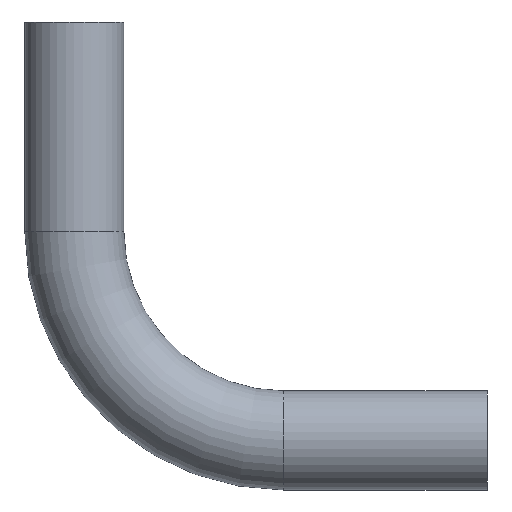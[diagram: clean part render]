
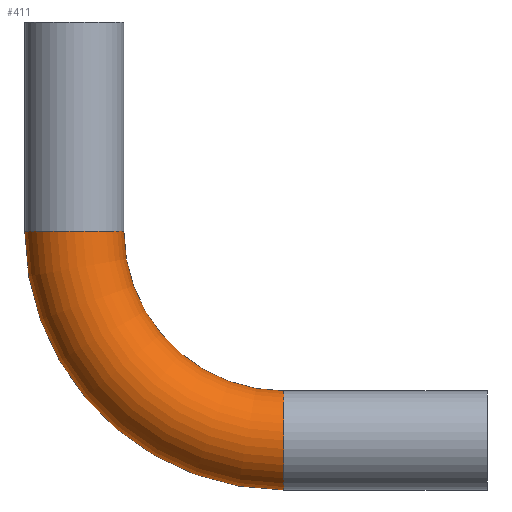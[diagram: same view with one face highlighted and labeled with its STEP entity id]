
A CAD part, top view. The second image highlights one B-rep face of the part: STEP entity #411.
In plain terms, the highlighted toroidal (fillet/blend) face has major radius 190 mm and minor radius 45 mm.
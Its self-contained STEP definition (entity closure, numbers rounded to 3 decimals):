
#1 = CIRCLE ( 'NONE', #9, 235. ) ;
#3 = TOROIDAL_SURFACE ( 'NONE', #383, 190., 45. ) ;
#9 = AXIS2_PLACEMENT_3D ( 'NONE', #17, #14, #16 ) ;
#14 = DIRECTION ( 'NONE',  ( 0., 0., -1. ) ) ;
#16 = DIRECTION ( 'NONE',  ( -1., 0., 0. ) ) ;
#17 = CARTESIAN_POINT ( 'NONE',  ( -185., 190., 0. ) ) ;
#156 = DIRECTION ( 'NONE',  ( -1., 0., 0. ) ) ;
#157 = DIRECTION ( 'NONE',  ( 0., 0., -1. ) ) ;
#160 = CARTESIAN_POINT ( 'NONE',  ( -185., 190., 0. ) ) ;
#175 = DIRECTION ( 'NONE',  ( 0., 0., -1. ) ) ;
#178 = DIRECTION ( 'NONE',  ( 0., -1., 0. ) ) ;
#179 = CARTESIAN_POINT ( 'NONE',  ( -375., 190., 0. ) ) ;
#183 = DIRECTION ( 'NONE',  ( -1., 0., 0. ) ) ;
#184 = CARTESIAN_POINT ( 'NONE',  ( -185., 190., 0. ) ) ;
#191 = FACE_OUTER_BOUND ( 'NONE', #280, .T. ) ;
#197 = DIRECTION ( 'NONE',  ( 0., 0., -1. ) ) ;
#213 = AXIS2_PLACEMENT_3D ( 'NONE', #160, #157, #156 ) ;
#214 = CIRCLE ( 'NONE', #213, 145. ) ;
#245 = CARTESIAN_POINT ( 'NONE',  ( -185., 45., 0. ) ) ;
#247 = CARTESIAN_POINT ( 'NONE',  ( -185., -45., 0. ) ) ;
#249 = CARTESIAN_POINT ( 'NONE',  ( -420., 190., 0. ) ) ;
#254 = VERTEX_POINT ( 'NONE', #287 ) ;
#262 = VERTEX_POINT ( 'NONE', #249 ) ;
#264 = VERTEX_POINT ( 'NONE', #247 ) ;
#266 = VERTEX_POINT ( 'NONE', #245 ) ;
#280 = EDGE_LOOP ( 'NONE', ( #307, #308, #309, #310 ) ) ;
#287 = CARTESIAN_POINT ( 'NONE',  ( -330., 190., 0. ) ) ;
#307 = ORIENTED_EDGE ( 'NONE', *, *, #421, .F. ) ;
#308 = ORIENTED_EDGE ( 'NONE', *, *, #428, .F. ) ;
#309 = ORIENTED_EDGE ( 'NONE', *, *, #416, .T. ) ;
#310 = ORIENTED_EDGE ( 'NONE', *, *, #412, .T. ) ;
#337 = AXIS2_PLACEMENT_3D ( 'NONE', #388, #389, #387 ) ;
#382 = CIRCLE ( 'NONE', #394, 45. ) ;
#383 = AXIS2_PLACEMENT_3D ( 'NONE', #184, #197, #183 ) ;
#384 = CIRCLE ( 'NONE', #337, 45. ) ;
#387 = DIRECTION ( 'NONE',  ( 0., 0., -1. ) ) ;
#388 = CARTESIAN_POINT ( 'NONE',  ( -185., 0., 0. ) ) ;
#389 = DIRECTION ( 'NONE',  ( 1., 0., 0. ) ) ;
#394 = AXIS2_PLACEMENT_3D ( 'NONE', #179, #178, #175 ) ;
#411 = ADVANCED_FACE ( 'NONE', ( #191 ), #3, .T. ) ;
#412 = EDGE_CURVE ( 'NONE', #254, #262, #382, .T. ) ;
#416 = EDGE_CURVE ( 'NONE', #266, #254, #214, .T. ) ;
#421 = EDGE_CURVE ( 'NONE', #264, #262, #1, .T. ) ;
#428 = EDGE_CURVE ( 'NONE', #266, #264, #384, .T. ) ;
